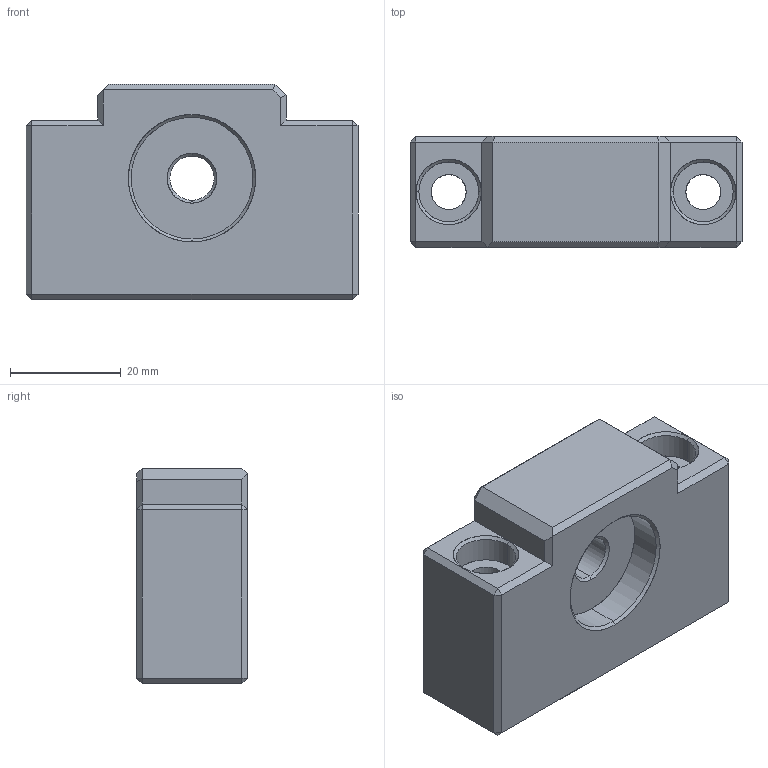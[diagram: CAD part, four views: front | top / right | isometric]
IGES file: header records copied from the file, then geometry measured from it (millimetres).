
Start section: SolidWorks IGES file using analytic representation for surfaces
Global section: file name: E:\同创达图纸\产品示意图\3D选型图\支撑座\BF系列\BF10.IGS; native system: SolidWorks 2012; preprocessor: SolidWorks 2012; author: gao; date: 130702.152143; units: millimetre
Bounding box: 60 x 20 x 39 mm (x, y, z)
Surface area: 10118.3 mm2 (no closed solid volume)
Topology: 0 solids, 0 shells, 77 faces, 744 edges, 744 vertices
Faces by surface type: bspline 47, revolution 30
